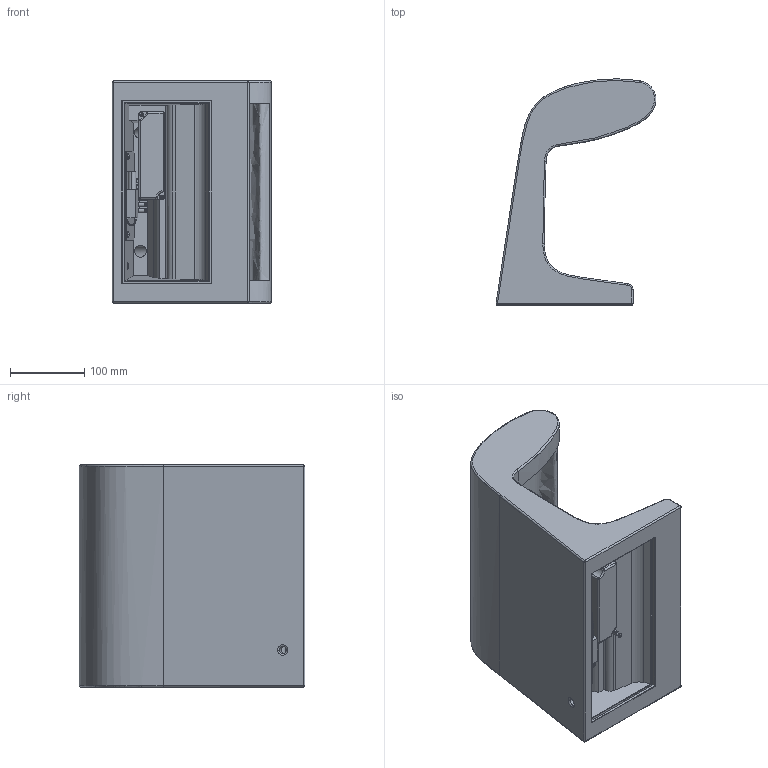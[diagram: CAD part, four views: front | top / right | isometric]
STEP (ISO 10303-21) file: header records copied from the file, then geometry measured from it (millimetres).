
FILE_DESCRIPTION (( 'STEP AP203' ), '1' );
FILE_NAME ('800BBPLDW211_Borne Beton Piccola.STEP', '2016-11-10T11:02:42', ( '' ), ( '' ), 'SwSTEP 2.0', 'SolidWorks 2016', '' );
FILE_SCHEMA (( 'CONFIG_CONTROL_DESIGN' ));
Length unit declared in the file: millimetre
Products named in the file (19): ELETTROZ_MF30 H 3050 30; CONNETTORE_CL2_DIEMME_corto; 051BBP000100_Dissipatore; 800BBPLDW211_Borne Beton Piccola; 081COM000044 - 6 POLI - MORSETTIERA NYLON; 010BBP000300_Diffusore a arco; Vite TSICR M4x6; ALIMENTATORE MEAN WELL_LPV-20-24; Vite TSICR M4x12_B18.6.7M - M3 x 0.5 x 13 Type I Cross Recessed FHMS --13N; 010BBP000200_Piattina cablaggio; Vite M4x6 TCICR_PreviewCfg; 008ARA000000-MOLLETTA VTR PROT; Vite M3x8 TSICR; Vite M10x10 TCEI; dado M3_semplice; 093COM000087_STRIP LED BETON; VITE M3x6 TCICR; 010BBP000400_Staffetta sost. dissipatore led; 054BBP000100_Corpo 30x30
Assembly tree (26 placements, depth 2):
  800BBPLDW211_Borne Beton Piccola
    054BBP000100_Corpo 30x30
    051BBP000100_Dissipatore
    010BBP000300_Diffusore a arco
    ALIMENTATORE MEAN WELL_LPV-20-24
    010BBP000200_Piattina cablaggio
    008ARA000000-MOLLETTA VTR PROT  x2
    Vite M10x10 TCEI  x2
    093COM000087_STRIP LED BETON
    010BBP000400_Staffetta sost. dissipatore led
    CONNETTORE_CL2_DIEMME_corto
    081COM000044 - 6 POLI - MORSETTIERA NYLON
    Vite TSICR M4x6  x2
    Vite TSICR M4x12_B18.6.7M - M3 x 0.5 x 13 Type I Cross Recessed FHMS --13N  x2
    Vite M4x6 TCICR_PreviewCfg  x2
    Vite M3x8 TSICR  x3
    dado M3_semplice
    VITE M3x6 TCICR  x2
    ELETTROZ_MF30 H 3050 30
Bounding box: 216.21 x 305.2 x 300 mm (x, y, z)
Volume: 5950693.4 mm3; surface area: 672416.1 mm2
Topology: 31 solids, 31 shells, 2467 faces, 6376 edges, 4136 vertices
Faces by surface type: plane 1890, cylinder 405, torus 90, cone 38, bspline 24, sphere 20
Entity records: 73551 total; most frequent: CARTESIAN_POINT 15898, ORIENTED_EDGE 11710, DIRECTION 10952, EDGE_CURVE 5855, VECTOR 4616, LINE 4616, VERTEX_POINT 3820, AXIS2_PLACEMENT_3D 3168
